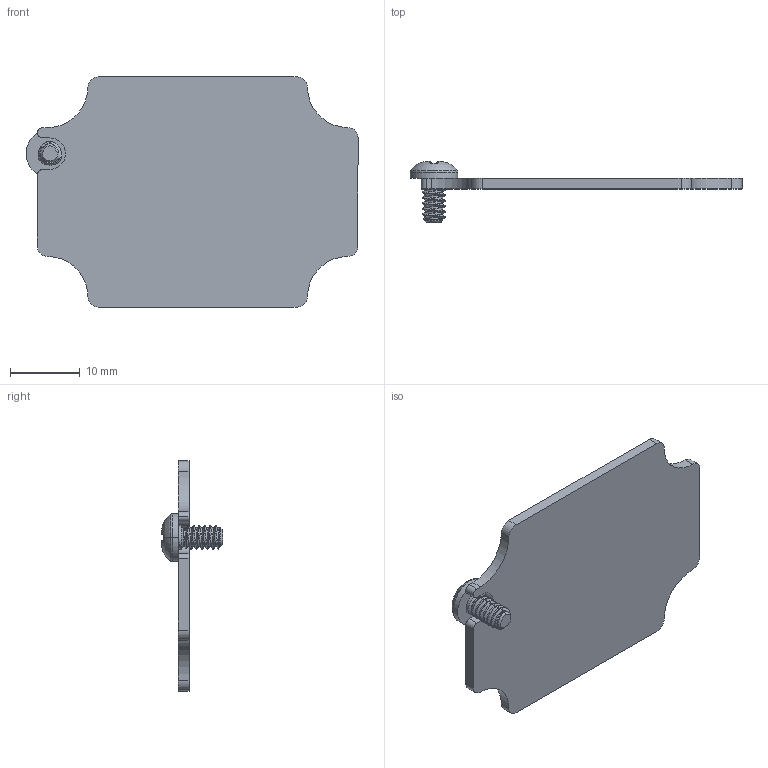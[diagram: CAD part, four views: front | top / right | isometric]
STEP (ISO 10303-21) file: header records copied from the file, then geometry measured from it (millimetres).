
FILE_DESCRIPTION (( 'STEP AP214' ), '1' );
FILE_NAME ('AN-18K.step', '2026-09-17T19:29:53', ( '' ), ( '' ), 'SwSTEP 2.0', 'SolidWorks 2026', '' );
FILE_SCHEMA (( 'AUTOMOTIVE_DESIGN' ));
Length unit declared in the file: inch
Products named in the file (3): AN-18K; AN-18-P_DEFAULT; SCREWS-050
Assembly tree (2 placements, depth 2):
  AN-18K
    AN-18-P_DEFAULT
    SCREWS-050
Bounding box: 47.63 x 8.8 x 33 mm (x, y, z)
Volume: 2113.2 mm3; surface area: 3060.3 mm2
Topology: 2 solids, 2 shells, 359 faces, 873 edges, 517 vertices
Faces by surface type: bspline 184, cylinder 93, plane 34, sphere 24, cone 20, torus 4
Entity records: 17156 total; most frequent: CARTESIAN_POINT 10022, ORIENTED_EDGE 1742, DIRECTION 1007, EDGE_CURVE 871, VERTEX_POINT 517, B_SPLINE_CURVE_WITH_KNOTS 415, AXIS2_PLACEMENT_3D 371, EDGE_LOOP 360
